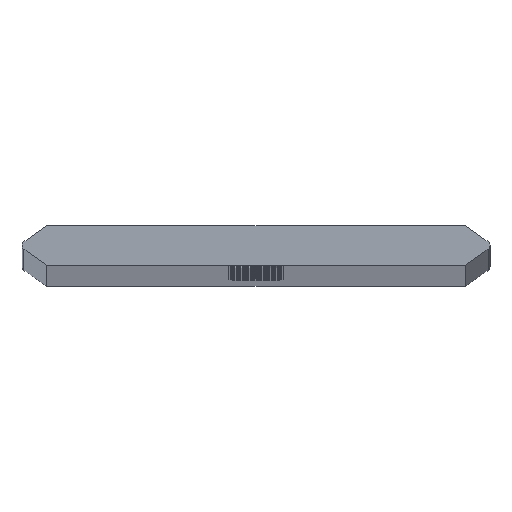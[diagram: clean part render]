
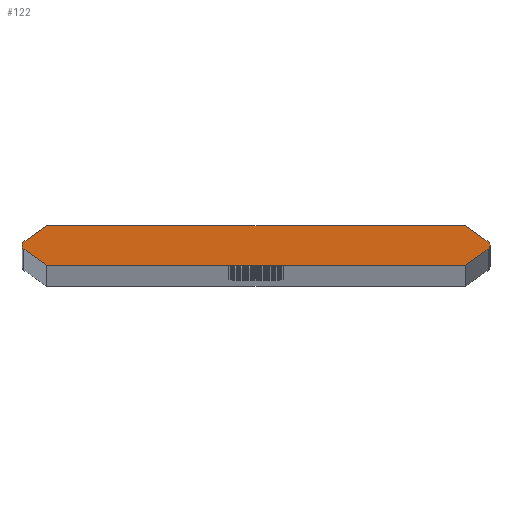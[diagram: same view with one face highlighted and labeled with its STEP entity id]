
A CAD part, top view. The second image highlights one B-rep face of the part: STEP entity #122.
In plain terms, the highlighted planar face has unit normal (0, 0, 1).
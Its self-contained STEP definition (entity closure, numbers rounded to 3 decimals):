
#122=ADVANCED_FACE('',(#226),#227,.T.);
#226=FACE_OUTER_BOUND('',#382,.T.);
#227=PLANE('',#383);
#382=EDGE_LOOP('',(#773,#774,#775,#776,#777,#778,#779,#780,#781,#782));
#383=AXIS2_PLACEMENT_3D('',#783,#784,#785);
#773=ORIENTED_EDGE('',*,*,#941,.T.);
#774=ORIENTED_EDGE('',*,*,#1078,.T.);
#775=ORIENTED_EDGE('',*,*,#1079,.F.);
#776=ORIENTED_EDGE('',*,*,#1080,.F.);
#777=ORIENTED_EDGE('',*,*,#1081,.F.);
#778=ORIENTED_EDGE('',*,*,#937,.T.);
#779=ORIENTED_EDGE('',*,*,#1082,.T.);
#780=ORIENTED_EDGE('',*,*,#1083,.F.);
#781=ORIENTED_EDGE('',*,*,#1084,.F.);
#782=ORIENTED_EDGE('',*,*,#1085,.F.);
#783=CARTESIAN_POINT('',(0.,0.,1976.0));
#784=DIRECTION('',(0.0,0.0,1.0));
#785=DIRECTION('',(1.0,0.0,0.0));
#937=EDGE_CURVE('',#1101,#1098,#1102,.T.);
#941=EDGE_CURVE('',#1109,#1106,#1110,.T.);
#1078=EDGE_CURVE('',#1106,#1336,#1338,.T.);
#1079=EDGE_CURVE('',#1339,#1336,#1340,.T.);
#1080=EDGE_CURVE('',#1341,#1339,#1342,.T.);
#1081=EDGE_CURVE('',#1101,#1341,#1343,.T.);
#1082=EDGE_CURVE('',#1098,#1344,#1345,.T.);
#1083=EDGE_CURVE('',#1346,#1344,#1347,.T.);
#1084=EDGE_CURVE('',#1348,#1346,#1349,.T.);
#1085=EDGE_CURVE('',#1109,#1348,#1350,.T.);
#1098=VERTEX_POINT('',#1368);
#1101=VERTEX_POINT('',#1372);
#1102=CIRCLE('',#1373,0.76);
#1106=VERTEX_POINT('',#1378);
#1109=VERTEX_POINT('',#1382);
#1110=CIRCLE('',#1383,0.76);
#1336=VERTEX_POINT('',#1654);
#1338=CIRCLE('',#1657,0.76);
#1339=VERTEX_POINT('',#1658);
#1340=LINE('',#1659,#1660);
#1341=VERTEX_POINT('',#1661);
#1342=LINE('',#1662,#1663);
#1343=LINE('',#1664,#1665);
#1344=VERTEX_POINT('',#1666);
#1345=CIRCLE('',#1667,0.76);
#1346=VERTEX_POINT('',#1668);
#1347=LINE('',#1669,#1670);
#1348=VERTEX_POINT('',#1671);
#1349=LINE('',#1672,#1673);
#1350=LINE('',#1674,#1675);
#1368=CARTESIAN_POINT('',(38.225,0.,1976.0));
#1372=CARTESIAN_POINT('',(37.904,-0.62,1976.0));
#1373=AXIS2_PLACEMENT_3D('',#1705,#1706,#1707);
#1378=CARTESIAN_POINT('',(-38.225,0.,1976.0));
#1382=CARTESIAN_POINT('',(-37.904,0.62,1976.0));
#1383=AXIS2_PLACEMENT_3D('',#1713,#1714,#1715);
#1654=CARTESIAN_POINT('',(-37.904,-0.62,1976.0));
#1657=AXIS2_PLACEMENT_3D('',#2032,#2033,#2034);
#1658=CARTESIAN_POINT('',(-34.206,-3.21,1976.0));
#1659=CARTESIAN_POINT('',(-38.79,0.,1976.0));
#1660=VECTOR('',#2035,1.0);
#1661=CARTESIAN_POINT('',(34.206,-3.21,1976.0));
#1662=CARTESIAN_POINT('',(34.206,-3.21,1976.0));
#1663=VECTOR('',#2036,1.0);
#1664=CARTESIAN_POINT('',(38.79,0.0,1976.0));
#1665=VECTOR('',#2037,1.0);
#1666=CARTESIAN_POINT('',(37.904,0.62,1976.0));
#1667=AXIS2_PLACEMENT_3D('',#2038,#2039,#2040);
#1668=CARTESIAN_POINT('',(34.206,3.21,1976.0));
#1669=CARTESIAN_POINT('',(38.79,0.0,1976.0));
#1670=VECTOR('',#2041,1.0);
#1671=CARTESIAN_POINT('',(-34.206,3.21,1976.0));
#1672=CARTESIAN_POINT('',(-34.206,3.21,1976.0));
#1673=VECTOR('',#2042,1.0);
#1674=CARTESIAN_POINT('',(-38.79,0.,1976.0));
#1675=VECTOR('',#2043,1.0);
#1705=CARTESIAN_POINT('',(37.465,0.0,1976.0));
#1706=DIRECTION('',(0.0,0.0,1.0));
#1707=DIRECTION('',(1.0,0.0,0.0));
#1713=CARTESIAN_POINT('',(-37.465,0.,1976.0));
#1714=DIRECTION('',(0.0,0.0,1.0));
#1715=DIRECTION('',(-1.0,0.,0.0));
#2032=CARTESIAN_POINT('',(-37.465,0.,1976.0));
#2033=DIRECTION('',(0.0,0.0,1.0));
#2034=DIRECTION('',(-1.0,0.,0.0));
#2035=DIRECTION('',(-0.819,0.574,0.0));
#2036=DIRECTION('',(-1.0,0.,0.0));
#2037=DIRECTION('',(-0.819,-0.574,0.0));
#2038=CARTESIAN_POINT('',(37.465,0.0,1976.0));
#2039=DIRECTION('',(0.0,0.0,1.0));
#2040=DIRECTION('',(1.0,0.0,0.0));
#2041=DIRECTION('',(0.819,-0.574,0.0));
#2042=DIRECTION('',(1.0,0.,0.0));
#2043=DIRECTION('',(0.819,0.574,0.0));
